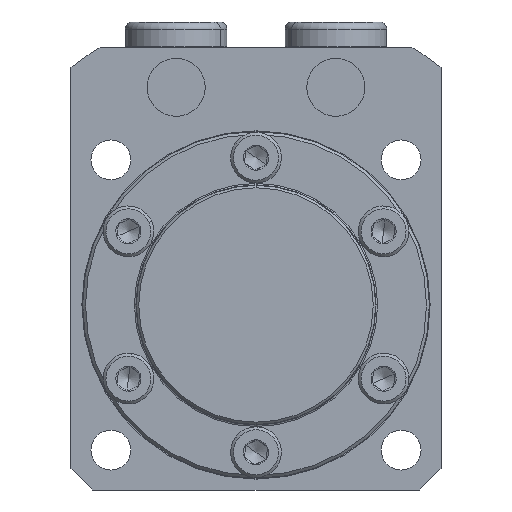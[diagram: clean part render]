
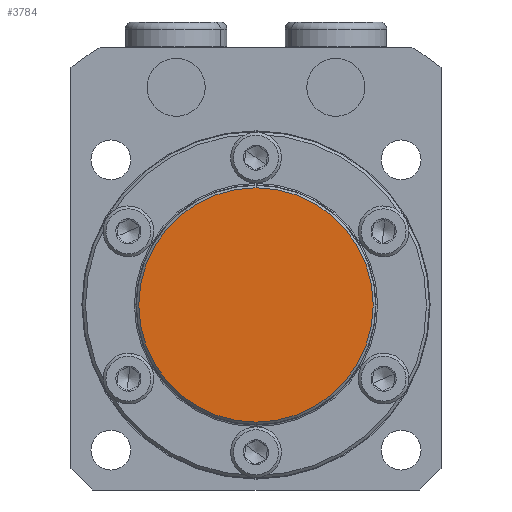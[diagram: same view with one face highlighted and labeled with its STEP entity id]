
A CAD part, front view. The second image highlights one B-rep face of the part: STEP entity #3784.
In plain terms, the highlighted planar face has unit normal (0, -1, 0).
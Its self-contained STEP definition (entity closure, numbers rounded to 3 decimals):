
#31 = CIRCLE ( 'NONE', #3638, 16.15 ) ;
#325 = DIRECTION ( 'NONE',  ( 0., -1., 0. ) ) ;
#560 = DIRECTION ( 'NONE',  ( 0., 0., -1. ) ) ;
#910 = EDGE_CURVE ( 'NONE', #2829, #5685, #6340, .T. ) ;
#945 = CARTESIAN_POINT ( 'NONE',  ( 0., -8.5, 0. ) ) ;
#1780 = EDGE_CURVE ( 'NONE', #5685, #2829, #31, .T. ) ;
#2189 = ORIENTED_EDGE ( 'NONE', *, *, #1780, .T. ) ;
#2717 = CARTESIAN_POINT ( 'NONE',  ( 0., -8.5, 16.15 ) ) ;
#2829 = VERTEX_POINT ( 'NONE', #3294 ) ;
#3294 = CARTESIAN_POINT ( 'NONE',  ( 0., -8.5, -16.15 ) ) ;
#3322 = DIRECTION ( 'NONE',  ( 0., -1., 0. ) ) ;
#3348 = ORIENTED_EDGE ( 'NONE', *, *, #910, .T. ) ;
#3638 = AXIS2_PLACEMENT_3D ( 'NONE', #3768, #325, #4347 ) ;
#3768 = CARTESIAN_POINT ( 'NONE',  ( 0., -8.5, 0. ) ) ;
#3784 = ADVANCED_FACE ( 'NONE', ( #5672 ), #5041, .T. ) ;
#4007 = DIRECTION ( 'NONE',  ( 0., -1., 0. ) ) ;
#4055 = AXIS2_PLACEMENT_3D ( 'NONE', #945, #3322, #7352 ) ;
#4071 = AXIS2_PLACEMENT_3D ( 'NONE', #7449, #4007, #560 ) ;
#4347 = DIRECTION ( 'NONE',  ( 0., 0., -1. ) ) ;
#5041 = PLANE ( 'NONE',  #4055 ) ;
#5672 = FACE_OUTER_BOUND ( 'NONE', #6957, .T. ) ;
#5685 = VERTEX_POINT ( 'NONE', #2717 ) ;
#6340 = CIRCLE ( 'NONE', #4071, 16.15 ) ;
#6957 = EDGE_LOOP ( 'NONE', ( #2189, #3348 ) ) ;
#7352 = DIRECTION ( 'NONE',  ( 0., 0., -1. ) ) ;
#7449 = CARTESIAN_POINT ( 'NONE',  ( 0., -8.5, 0. ) ) ;
